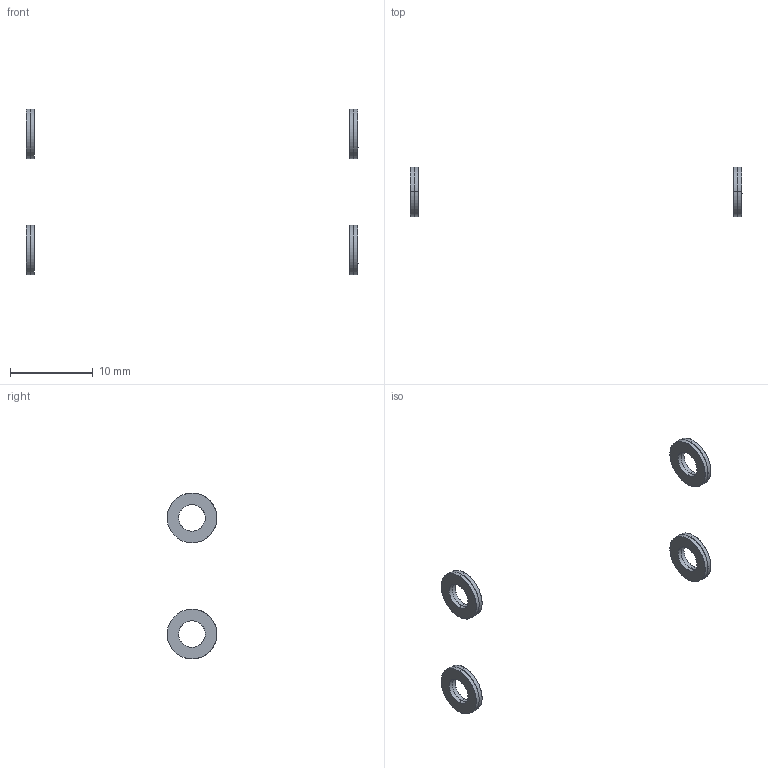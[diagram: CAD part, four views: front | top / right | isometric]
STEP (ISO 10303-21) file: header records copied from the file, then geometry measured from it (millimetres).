
FILE_DESCRIPTION(/* description */ (''),/* implementation_level */ '2;1');
FILE_NAME(/* name */ 'X-C2EA~1',/* time_stamp */ '2014-02-14T19:44:44+01:00',/* author */ (''),/* organization */ (''),/* preprocessor_version */ 'ST-DEVELOPER v14',/* originating_system */ '',/* authorisation */ '');
FILE_SCHEMA (('AUTOMOTIVE_DESIGN'));
Length unit declared in the file: millimetre
Products named in the file (2): Document; washer DIN125-like, form A, M3
Assembly tree (4 placements, depth 2):
  Document
    washer DIN125-like, form A, M3  x4
Bounding box: 40 x 5.99 x 20 mm (x, y, z)
Surface area: 440.5 mm2 (no closed solid volume)
Topology: 0 solids, 48 shells, 48 faces, 160 edges, 160 vertices
Faces by surface type: bspline 32, plane 16
Entity records: 2543 total; most frequent: CARTESIAN_POINT 1277, B_SPLINE_CURVE_WITH_KNOTS 120, ORIENTED_EDGE 100, PCURVE 100, DEFINITIONAL_REPRESENTATION 100, SURFACE_CURVE 100, EDGE_CURVE 100, VERTEX_POINT 100
